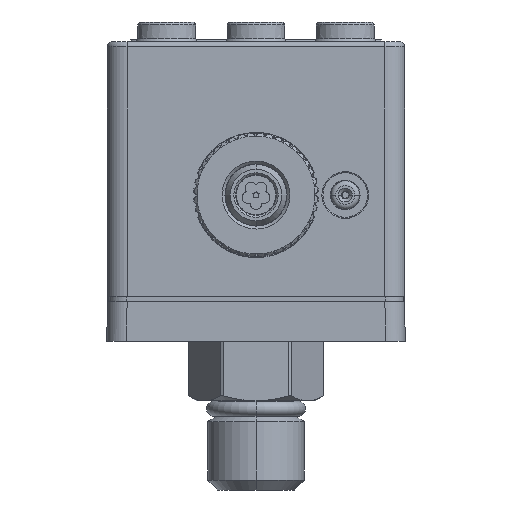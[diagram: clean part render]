
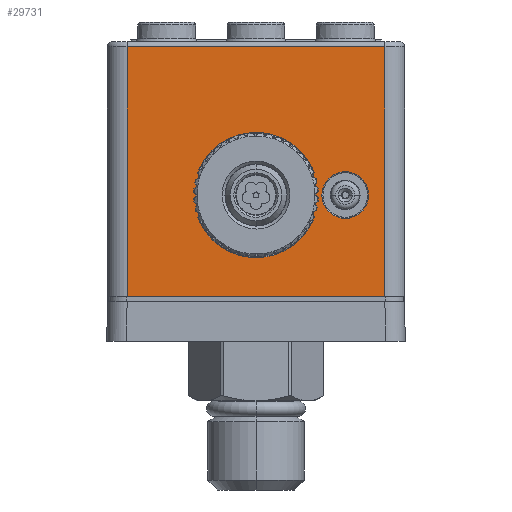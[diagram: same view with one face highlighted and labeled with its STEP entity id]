
A CAD part, front view. The second image highlights one B-rep face of the part: STEP entity #29731.
In plain terms, the highlighted planar face has unit normal (0, -1, 0).
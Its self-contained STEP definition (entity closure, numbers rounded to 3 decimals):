
#4562=CARTESIAN_POINT('',(4.759,-15.,12.417));
#4563=DIRECTION('',(0.,1.,0.));
#4564=DIRECTION('',(1.,0.,-0.017));
#4565=AXIS2_PLACEMENT_3D('',#4562,#4563,#4564);
#4597=CARTESIAN_POINT('',(4.759,-15.,17.083));
#4598=DIRECTION('',(0.,1.,0.));
#4599=DIRECTION('',(0.898,0.,0.44));
#4600=AXIS2_PLACEMENT_3D('',#4597,#4598,#4599);
#5113=CARTESIAN_POINT('',(-4.759,-15.,17.083));
#5114=DIRECTION('',(0.,1.,0.));
#5115=DIRECTION('',(-1.,0.,0.017));
#5116=AXIS2_PLACEMENT_3D('',#5113,#5114,#5115);
#5143=CARTESIAN_POINT('',(-4.759,-15.,12.417));
#5144=DIRECTION('',(0.,1.,0.));
#5145=DIRECTION('',(-0.898,0.,-0.44));
#5146=AXIS2_PLACEMENT_3D('',#5143,#5144,#5145);
#5148=DIRECTION('',(1.,0.,0.));
#5149=VECTOR('',#5148,26.);
#5150=CARTESIAN_POINT('',(-13.,-15.,4.5));
#5151=LINE('',#5150,#5149);
#5152=DIRECTION('',(0.,0.,-1.));
#5153=VECTOR('',#5152,25.2);
#5154=CARTESIAN_POINT('',(-13.,-15.,29.7));
#5155=LINE('',#5154,#5153);
#5156=DIRECTION('',(1.,0.,0.));
#5157=VECTOR('',#5156,26.);
#5158=CARTESIAN_POINT('',(-13.,-15.,29.7));
#5159=LINE('',#5158,#5157);
#5160=DIRECTION('',(0.,0.,-1.));
#5161=VECTOR('',#5160,25.2);
#5162=CARTESIAN_POINT('',(13.,-15.,29.7));
#5163=LINE('',#5162,#5161);
#5164=CARTESIAN_POINT('',(0.,-15.,14.75));
#5165=DIRECTION('',(0.,-1.,0.));
#5166=DIRECTION('',(-0.898,0.,-0.44));
#5167=AXIS2_PLACEMENT_3D('',#5164,#5165,#5166);
#5169=DIRECTION('',(-0.017,0.,-1.));
#5170=VECTOR('',#5169,2.35);
#5171=CARTESIAN_POINT('',(5.8,-15.,14.75));
#5172=LINE('',#5171,#5170);
#5173=DIRECTION('',(0.017,0.,-1.));
#5174=VECTOR('',#5173,2.35);
#5175=CARTESIAN_POINT('',(5.759,-15.,17.1));
#5176=LINE('',#5175,#5174);
#5177=CARTESIAN_POINT('',(0.,-15.,14.75));
#5178=DIRECTION('',(0.,-1.,0.));
#5179=DIRECTION('',(0.898,0.,0.44));
#5180=AXIS2_PLACEMENT_3D('',#5177,#5178,#5179);
#5182=DIRECTION('',(0.017,0.,1.));
#5183=VECTOR('',#5182,2.35);
#5184=CARTESIAN_POINT('',(-5.8,-15.,14.75));
#5185=LINE('',#5184,#5183);
#5186=DIRECTION('',(-0.017,0.,1.));
#5187=VECTOR('',#5186,2.35);
#5188=CARTESIAN_POINT('',(-5.759,-15.,12.4));
#5189=LINE('',#5188,#5187);
#5190=CARTESIAN_POINT('',(9.,-15.,14.75));
#5191=DIRECTION('',(0.,1.,0.));
#5192=DIRECTION('',(-1.,0.,0.));
#5193=AXIS2_PLACEMENT_3D('',#5190,#5191,#5192);
#5195=CARTESIAN_POINT('',(9.,-15.,14.75));
#5196=DIRECTION('',(0.,1.,0.));
#5197=DIRECTION('',(1.,0.,0.));
#5198=AXIS2_PLACEMENT_3D('',#5195,#5196,#5197);
#23202=CARTESIAN_POINT('',(-13.,-15.,4.5));
#23203=CARTESIAN_POINT('',(13.,-15.,4.5));
#23204=VERTEX_POINT('',#23202);
#23205=VERTEX_POINT('',#23203);
#23226=CARTESIAN_POINT('',(13.,-15.,29.7));
#23227=VERTEX_POINT('',#23226);
#23232=CARTESIAN_POINT('',(-13.,-15.,29.7));
#23233=VERTEX_POINT('',#23232);
#23334=CARTESIAN_POINT('',(6.646,-15.,14.75));
#23335=CARTESIAN_POINT('',(11.354,-15.,14.75));
#23336=VERTEX_POINT('',#23334);
#23337=VERTEX_POINT('',#23335);
#23528=CARTESIAN_POINT('',(5.8,-15.,14.75));
#23529=VERTEX_POINT('',#23528);
#23539=CARTESIAN_POINT('',(5.759,-15.,17.1));
#23540=VERTEX_POINT('',#23539);
#23541=CARTESIAN_POINT('',(5.759,-15.,12.4));
#23542=VERTEX_POINT('',#23541);
#23543=CARTESIAN_POINT('',(5.657,-15.,17.523));
#23544=VERTEX_POINT('',#23543);
#23545=CARTESIAN_POINT('',(5.657,-15.,11.977));
#23546=VERTEX_POINT('',#23545);
#23554=CARTESIAN_POINT('',(-5.657,-15.,17.523));
#23555=VERTEX_POINT('',#23554);
#23556=CARTESIAN_POINT('',(-5.657,-15.,11.977));
#23557=VERTEX_POINT('',#23556);
#23568=CARTESIAN_POINT('',(-5.759,-15.,12.4));
#23569=CARTESIAN_POINT('',(-5.8,-15.,14.75));
#23570=VERTEX_POINT('',#23568);
#23571=VERTEX_POINT('',#23569);
#23572=CARTESIAN_POINT('',(-5.759,-15.,17.1));
#23573=VERTEX_POINT('',#23572);
#29698=CARTESIAN_POINT('',(-15.,-15.,2.9));
#29699=DIRECTION('',(0.,-1.,0.));
#29700=DIRECTION('',(1.,0.,0.));
#29701=AXIS2_PLACEMENT_3D('',#29698,#29699,#29700);
#29702=PLANE('',#29701);
#29704=ORIENTED_EDGE('',*,*,#29703,.F.);
#29706=ORIENTED_EDGE('',*,*,#29705,.F.);
#29708=ORIENTED_EDGE('',*,*,#29707,.T.);
#29710=ORIENTED_EDGE('',*,*,#29709,.T.);
#29711=EDGE_LOOP('',(#29704,#29706,#29708,#29710));
#29712=FACE_OUTER_BOUND('',#29711,.F.);
#29713=ORIENTED_EDGE('',*,*,#28557,.T.);
#29714=ORIENTED_EDGE('',*,*,#29156,.F.);
#29715=ORIENTED_EDGE('',*,*,#29171,.F.);
#29716=ORIENTED_EDGE('',*,*,#29185,.F.);
#29717=ORIENTED_EDGE('',*,*,#29200,.F.);
#29718=ORIENTED_EDGE('',*,*,#29355,.T.);
#29719=ORIENTED_EDGE('',*,*,#29651,.F.);
#29720=ORIENTED_EDGE('',*,*,#29665,.F.);
#29721=ORIENTED_EDGE('',*,*,#29680,.F.);
#29722=ORIENTED_EDGE('',*,*,#29693,.F.);
#29723=EDGE_LOOP('',(#29713,#29714,#29715,#29716,#29717,#29718,#29719,#29720,
#29721,#29722));
#29724=FACE_BOUND('',#29723,.F.);
#29726=ORIENTED_EDGE('',*,*,#29725,.F.);
#29728=ORIENTED_EDGE('',*,*,#29727,.F.);
#29729=EDGE_LOOP('',(#29726,#29728));
#29730=FACE_BOUND('',#29729,.F.);
#29731=ADVANCED_FACE('',(#29712,#29724,#29730),#29702,.T.);
#4566=CIRCLE('',#4565,1.);
#4601=CIRCLE('',#4600,1.);
#5117=CIRCLE('',#5116,1.);
#5147=CIRCLE('',#5146,1.);
#5168=CIRCLE('',#5167,6.3);
#5181=CIRCLE('',#5180,6.3);
#5194=CIRCLE('',#5193,2.354);
#5199=CIRCLE('',#5198,2.354);
#28557=EDGE_CURVE('',#23557,#23546,#5168,.T.);
#29156=EDGE_CURVE('',#23542,#23546,#4566,.T.);
#29171=EDGE_CURVE('',#23529,#23542,#5172,.T.);
#29185=EDGE_CURVE('',#23540,#23529,#5176,.T.);
#29200=EDGE_CURVE('',#23544,#23540,#4601,.T.);
#29355=EDGE_CURVE('',#23544,#23555,#5181,.T.);
#29651=EDGE_CURVE('',#23573,#23555,#5117,.T.);
#29665=EDGE_CURVE('',#23571,#23573,#5185,.T.);
#29680=EDGE_CURVE('',#23570,#23571,#5189,.T.);
#29693=EDGE_CURVE('',#23557,#23570,#5147,.T.);
#29703=EDGE_CURVE('',#23204,#23205,#5151,.T.);
#29705=EDGE_CURVE('',#23233,#23204,#5155,.T.);
#29707=EDGE_CURVE('',#23233,#23227,#5159,.T.);
#29709=EDGE_CURVE('',#23227,#23205,#5163,.T.);
#29725=EDGE_CURVE('',#23336,#23337,#5194,.T.);
#29727=EDGE_CURVE('',#23337,#23336,#5199,.T.);
